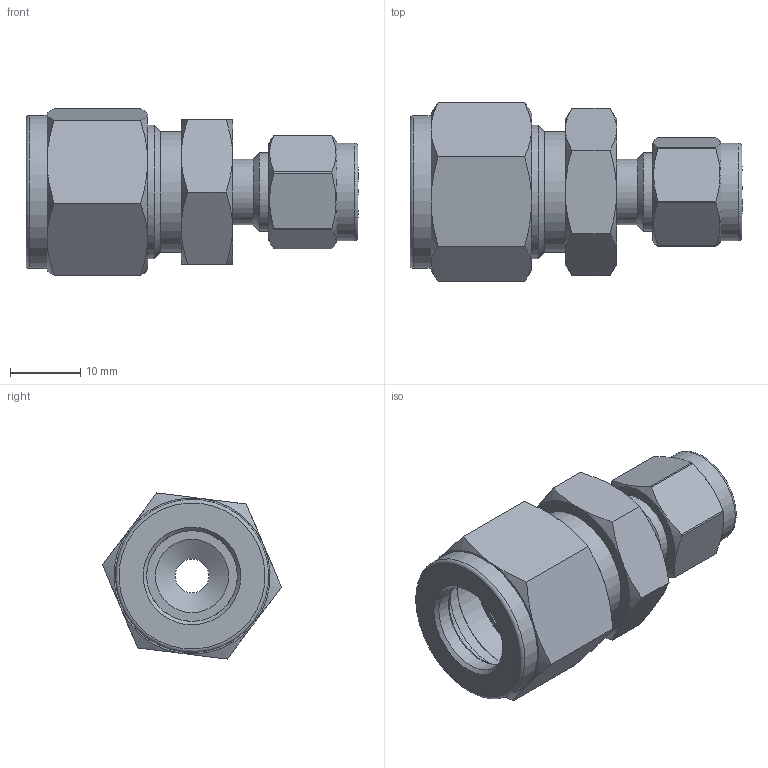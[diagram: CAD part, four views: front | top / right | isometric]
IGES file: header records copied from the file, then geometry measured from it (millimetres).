
Global section: file name: No Iges File Name specified; native system: Autodesk Inventor 2012; preprocessor: AutoDesk Inventor Iges Exporter R2012; author: 硅己绕,,1; organization: 1; date: 20150420.103316; units: millimetre
Bounding box: 47.24 x 25.46 x 23.63 mm (x, y, z)
Volume: 8536 mm3; surface area: 7005.5 mm2
Topology: 3 solids, 3 shells, 104 faces, 227 edges, 139 vertices
Faces by surface type: plane 34, cone 30, revolution 22, cylinder 14, torus 4
Full cylindrical faces by diameter (mm): 9.3 x1, 9.4 x1, 11.112 x1, 13.9 x1, 17.2 x1, 17.3 x1, 19.05 x1, 21.8 x1
